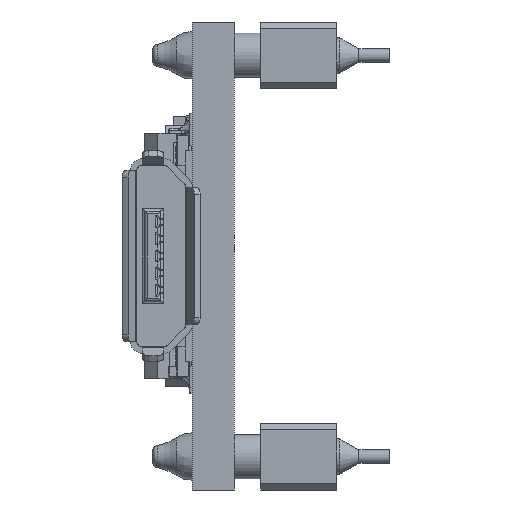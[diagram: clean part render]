
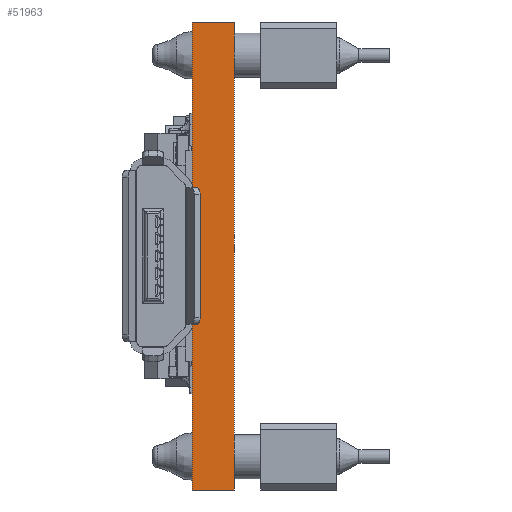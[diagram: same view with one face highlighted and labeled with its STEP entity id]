
A CAD part, left-side view. The second image highlights one B-rep face of the part: STEP entity #51963.
In plain terms, the highlighted planar face has unit normal (-1, 0, 0).
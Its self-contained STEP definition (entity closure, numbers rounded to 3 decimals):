
#1598=PLANE('',#55229);
#3507=LINE('',#72710,#9164);
#3511=LINE('',#72719,#9168);
#3515=LINE('',#72726,#9172);
#3516=LINE('',#72727,#9173);
#9164=VECTOR('',#59212,1000.);
#9168=VECTOR('',#59218,1000.);
#9172=VECTOR('',#59224,1000.);
#9173=VECTOR('',#59225,1000.);
#15445=FACE_OUTER_BOUND('',#18335,.T.);
#18335=EDGE_LOOP('',(#35255,#35256,#35257,#35258));
#22440=VERTEX_POINT('',#72708);
#22441=VERTEX_POINT('',#72709);
#22444=VERTEX_POINT('',#72717);
#22445=VERTEX_POINT('',#72718);
#27472=EDGE_CURVE('',#22440,#22441,#3507,.T.);
#27476=EDGE_CURVE('',#22444,#22445,#3511,.T.);
#27480=EDGE_CURVE('',#22441,#22445,#3515,.T.);
#27481=EDGE_CURVE('',#22440,#22444,#3516,.T.);
#35255=ORIENTED_EDGE('',*,*,#27476,.T.);
#35256=ORIENTED_EDGE('',*,*,#27480,.F.);
#35257=ORIENTED_EDGE('',*,*,#27472,.F.);
#35258=ORIENTED_EDGE('',*,*,#27481,.T.);
#51963=ADVANCED_FACE('',(#15445),#1598,.F.);
#55229=AXIS2_PLACEMENT_3D('',#72725,#59222,#59223);
#59212=DIRECTION('',(0.,0.,1.));
#59218=DIRECTION('',(0.,0.,1.));
#59222=DIRECTION('center_axis',(1.,0.,0.));
#59223=DIRECTION('ref_axis',(0.,0.,-1.));
#59224=DIRECTION('',(0.,-1.,0.));
#59225=DIRECTION('',(0.,-1.,0.));
#72708=CARTESIAN_POINT('',(-3.81,1.6,-16.51));
#72709=CARTESIAN_POINT('',(-3.81,1.6,1.27));
#72710=CARTESIAN_POINT('',(-3.81,1.6,-16.51));
#72717=CARTESIAN_POINT('',(-3.81,0.,-16.51));
#72718=CARTESIAN_POINT('',(-3.81,0.,1.27));
#72719=CARTESIAN_POINT('',(-3.81,0.,-16.51));
#72725=CARTESIAN_POINT('Origin',(-3.81,1.6,-16.51));
#72726=CARTESIAN_POINT('',(-3.81,1.6,1.27));
#72727=CARTESIAN_POINT('',(-3.81,1.6,-16.51));
